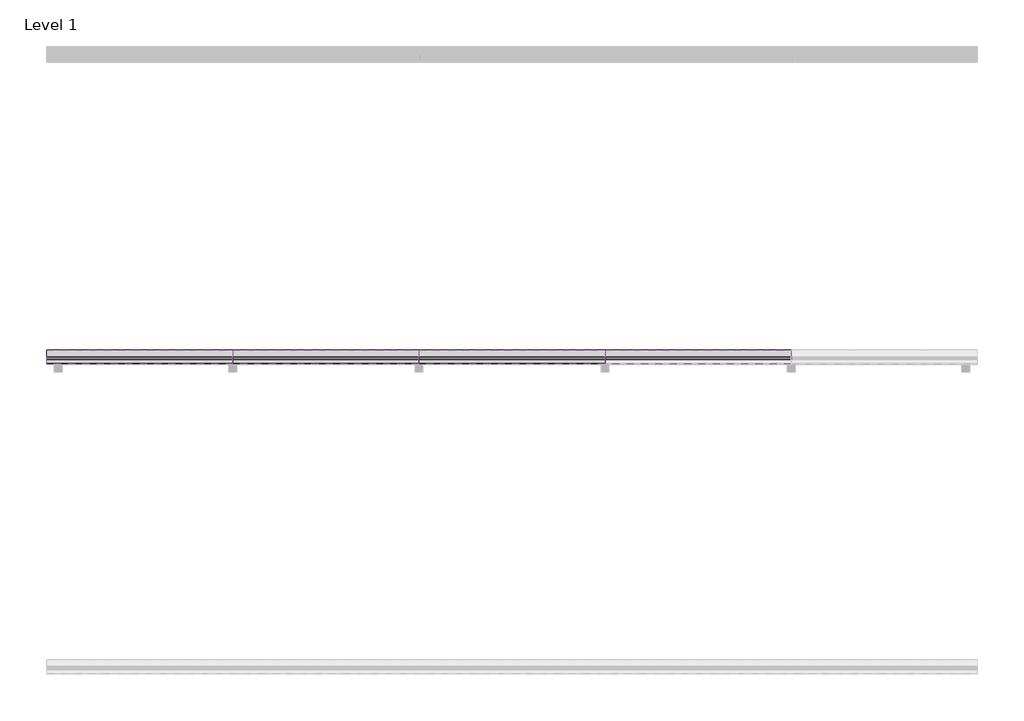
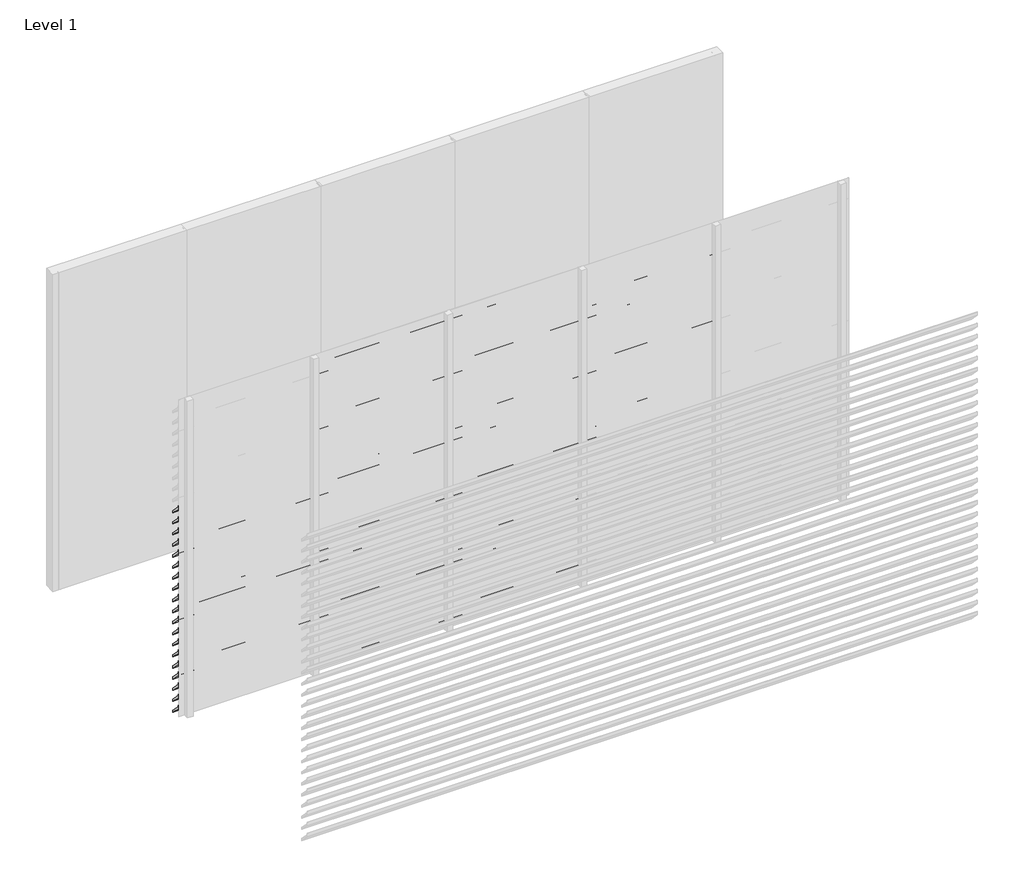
# One storey, part 4 of 8: 92 proxies.
"""IFC4 building model written with IfcOpenShell, lengths in millimetres."""

from ifc_helpers import new_model, si_unit, frame, origin, place, context, project, spatial, polyline, outline, extrude, element, save

model = new_model("IFC4")

# Units and contexts
model_context = context("Model", 3, world=origin())
ifc_project = project(units=[si_unit("LENGTHUNIT", "METRE", prefix="MILLI")], contexts=[model_context])

# Site, building, storey
site = spatial("IfcSite", under=ifc_project)
building = spatial("IfcBuilding", under=site)
storey = spatial("IfcBuildingStorey", under=building, Name="Level 1", Elevation=0.0)

# Proxies
placement = place(None, origin())
element("IfcBuildingElementProxy", 1, Name="Wall Sweeps", at=placement, inside=storey, context=model_context, shape_type="SweptSolid", body=[
    extrude(outline(polyline([(-11995.0, 1995.0), (-11995.0, 1982.0), (-11907.0, 1894.0), (-11907.0, 1873.0), (-11997.0, 1963.0), (-11997.0, 1995.0), (-11995.0, 1995.0)])), frame((0.0, 0.0, 0.0), z_axis=(1.0, 0.0, 0.0), x_axis=(0.0, 1.0, 0.0)), (0.0, 0.0, 1.0), 1200.0),
])
element("IfcBuildingElementProxy", 2, Name="Wall Sweeps", at=placement, inside=storey, context=model_context, shape_type="SweptSolid", body=[
    extrude(outline(polyline([(-11995.0, 1890.0), (-11995.0, 1877.0), (-11907.0, 1789.0), (-11907.0, 1768.0), (-11997.0, 1858.0), (-11997.0, 1890.0), (-11995.0, 1890.0)])), frame((0.0, 0.0, 0.0), z_axis=(1.0, 0.0, 0.0), x_axis=(0.0, 1.0, 0.0)), (0.0, 0.0, 1.0), 1200.0),
])
element("IfcBuildingElementProxy", 3, Name="Wall Sweeps", at=placement, inside=storey, context=model_context, shape_type="SweptSolid", body=[
    extrude(outline(polyline([(-11995.0, 1785.0), (-11995.0, 1772.0), (-11907.0, 1684.0), (-11907.0, 1663.0), (-11997.0, 1753.0), (-11997.0, 1785.0), (-11995.0, 1785.0)])), frame((0.0, 0.0, 0.0), z_axis=(1.0, 0.0, 0.0), x_axis=(0.0, 1.0, 0.0)), (0.0, 0.0, 1.0), 1200.0),
])
element("IfcBuildingElementProxy", 4, Name="Wall Sweeps", at=placement, inside=storey, context=model_context, shape_type="SweptSolid", body=[
    extrude(outline(polyline([(-11995.0, 1680.0), (-11995.0, 1667.0), (-11907.0, 1579.0), (-11907.0, 1558.0), (-11997.0, 1648.0), (-11997.0, 1680.0), (-11995.0, 1680.0)])), frame((0.0, 0.0, 0.0), z_axis=(1.0, 0.0, 0.0), x_axis=(0.0, 1.0, 0.0)), (0.0, 0.0, 1.0), 1200.0),
])
element("IfcBuildingElementProxy", 5, Name="Wall Sweeps", at=placement, inside=storey, context=model_context, shape_type="SweptSolid", body=[
    extrude(outline(polyline([(-11995.0, 1575.0), (-11995.0, 1562.0), (-11907.0, 1474.0), (-11907.0, 1453.0), (-11997.0, 1543.0), (-11997.0, 1575.0), (-11995.0, 1575.0)])), frame((0.0, 0.0, 0.0), z_axis=(1.0, 0.0, 0.0), x_axis=(0.0, 1.0, 0.0)), (0.0, 0.0, 1.0), 1200.0),
])
element("IfcBuildingElementProxy", 6, Name="Wall Sweeps", at=placement, inside=storey, context=model_context, shape_type="SweptSolid", body=[
    extrude(outline(polyline([(-11995.0, 1470.0), (-11995.0, 1457.0), (-11907.0, 1369.0), (-11907.0, 1348.0), (-11997.0, 1438.0), (-11997.0, 1470.0), (-11995.0, 1470.0)])), frame((0.0, 0.0, 0.0), z_axis=(1.0, 0.0, 0.0), x_axis=(0.0, 1.0, 0.0)), (0.0, 0.0, 1.0), 1200.0),
])
element("IfcBuildingElementProxy", 7, Name="Wall Sweeps", at=placement, inside=storey, context=model_context, shape_type="SweptSolid", body=[
    extrude(outline(polyline([(-11995.0, 1365.0), (-11995.0, 1352.0), (-11907.0, 1264.0), (-11907.0, 1243.0), (-11997.0, 1333.0), (-11997.0, 1365.0), (-11995.0, 1365.0)])), frame((0.0, 0.0, 0.0), z_axis=(1.0, 0.0, 0.0), x_axis=(0.0, 1.0, 0.0)), (0.0, 0.0, 1.0), 1200.0),
])
element("IfcBuildingElementProxy", 8, Name="Wall Sweeps", at=placement, inside=storey, context=model_context, shape_type="SweptSolid", body=[
    extrude(outline(polyline([(-11995.0, 1260.0), (-11995.0, 1247.0), (-11907.0, 1159.0), (-11907.0, 1138.0), (-11997.0, 1228.0), (-11997.0, 1260.0), (-11995.0, 1260.0)])), frame((0.0, 0.0, 0.0), z_axis=(1.0, 0.0, 0.0), x_axis=(0.0, 1.0, 0.0)), (0.0, 0.0, 1.0), 1200.0),
])
element("IfcBuildingElementProxy", 9, Name="Wall Sweeps", at=placement, inside=storey, context=model_context, shape_type="SweptSolid", body=[
    extrude(outline(polyline([(-11995.0, 1155.0), (-11995.0, 1142.0), (-11907.0, 1054.0), (-11907.0, 1033.0), (-11997.0, 1123.0), (-11997.0, 1155.0), (-11995.0, 1155.0)])), frame((0.0, 0.0, 0.0), z_axis=(1.0, 0.0, 0.0), x_axis=(0.0, 1.0, 0.0)), (0.0, 0.0, 1.0), 1200.0),
])
element("IfcBuildingElementProxy", 10, Name="Wall Sweeps", at=placement, inside=storey, context=model_context, shape_type="SweptSolid", body=[
    extrude(outline(polyline([(-11995.0, 1050.0), (-11995.0, 1037.0), (-11907.0, 949.0), (-11907.0, 928.0), (-11997.0, 1018.0), (-11997.0, 1050.0), (-11995.0, 1050.0)])), frame((0.0, 0.0, 0.0), z_axis=(1.0, 0.0, 0.0), x_axis=(0.0, 1.0, 0.0)), (0.0, 0.0, 1.0), 1200.0),
])
element("IfcBuildingElementProxy", 11, Name="Wall Sweeps", at=placement, inside=storey, context=model_context, shape_type="SweptSolid", body=[
    extrude(outline(polyline([(-11995.0, 945.0), (-11995.0, 932.0), (-11907.0, 844.0), (-11907.0, 823.0), (-11997.0, 913.0), (-11997.0, 945.0), (-11995.0, 945.0)])), frame((0.0, 0.0, 0.0), z_axis=(1.0, 0.0, 0.0), x_axis=(0.0, 1.0, 0.0)), (0.0, 0.0, 1.0), 1200.0),
])
element("IfcBuildingElementProxy", 12, Name="Wall Sweeps", at=placement, inside=storey, context=model_context, shape_type="SweptSolid", body=[
    extrude(outline(polyline([(-11995.0, 840.0), (-11995.0, 827.0), (-11907.0, 739.0), (-11907.0, 718.0), (-11997.0, 808.0), (-11997.0, 840.0), (-11995.0, 840.0)])), frame((0.0, 0.0, 0.0), z_axis=(1.0, 0.0, 0.0), x_axis=(0.0, 1.0, 0.0)), (0.0, 0.0, 1.0), 1200.0),
])
element("IfcBuildingElementProxy", 13, Name="Wall Sweeps", at=placement, inside=storey, context=model_context, shape_type="SweptSolid", body=[
    extrude(outline(polyline([(-11995.0, 735.0), (-11995.0, 722.0), (-11907.0, 634.0), (-11907.0, 613.0), (-11997.0, 703.0), (-11997.0, 735.0), (-11995.0, 735.0)])), frame((0.0, 0.0, 0.0), z_axis=(1.0, 0.0, 0.0), x_axis=(0.0, 1.0, 0.0)), (0.0, 0.0, 1.0), 1200.0),
])
element("IfcBuildingElementProxy", 14, Name="Wall Sweeps", at=placement, inside=storey, context=model_context, shape_type="SweptSolid", body=[
    extrude(outline(polyline([(-11995.0, 630.0), (-11995.0, 617.0), (-11907.0, 529.0), (-11907.0, 508.0), (-11997.0, 598.0), (-11997.0, 630.0), (-11995.0, 630.0)])), frame((0.0, 0.0, 0.0), z_axis=(1.0, 0.0, 0.0), x_axis=(0.0, 1.0, 0.0)), (0.0, 0.0, 1.0), 1200.0),
])
element("IfcBuildingElementProxy", 15, Name="Wall Sweeps", at=placement, inside=storey, context=model_context, shape_type="SweptSolid", body=[
    extrude(outline(polyline([(-11995.0, 525.0), (-11995.0, 512.0), (-11907.0, 424.0), (-11907.0, 403.0), (-11997.0, 493.0), (-11997.0, 525.0), (-11995.0, 525.0)])), frame((0.0, 0.0, 0.0), z_axis=(1.0, 0.0, 0.0), x_axis=(0.0, 1.0, 0.0)), (0.0, 0.0, 1.0), 1200.0),
])
element("IfcBuildingElementProxy", 16, Name="Wall Sweeps", at=placement, inside=storey, context=model_context, shape_type="SweptSolid", body=[
    extrude(outline(polyline([(-11995.0, 420.0), (-11995.0, 407.0), (-11907.0, 319.0), (-11907.0, 298.0), (-11997.0, 388.0), (-11997.0, 420.0), (-11995.0, 420.0)])), frame((0.0, 0.0, 0.0), z_axis=(1.0, 0.0, 0.0), x_axis=(0.0, 1.0, 0.0)), (0.0, 0.0, 1.0), 1200.0),
])
element("IfcBuildingElementProxy", 17, Name="Wall Sweeps", at=placement, inside=storey, context=model_context, shape_type="SweptSolid", body=[
    extrude(outline(polyline([(-11995.0, 315.0), (-11995.0, 302.0), (-11907.0, 214.0), (-11907.0, 193.0), (-11997.0, 283.0), (-11997.0, 315.0), (-11995.0, 315.0)])), frame((0.0, 0.0, 0.0), z_axis=(1.0, 0.0, 0.0), x_axis=(0.0, 1.0, 0.0)), (0.0, 0.0, 1.0), 1200.0),
])
element("IfcBuildingElementProxy", 18, Name="Wall Sweeps", at=placement, inside=storey, context=model_context, shape_type="SweptSolid", body=[
    extrude(outline(polyline([(-11995.0, 210.0), (-11995.0, 197.0), (-11907.0, 109.0), (-11907.0, 88.0), (-11997.0, 178.0), (-11997.0, 210.0), (-11995.0, 210.0)])), frame((0.0, 0.0, 0.0), z_axis=(1.0, 0.0, 0.0), x_axis=(0.0, 1.0, 0.0)), (0.0, 0.0, 1.0), 1200.0),
])
element("IfcBuildingElementProxy", 19, Name="Wall Sweeps", at=placement, inside=storey, context=model_context, shape_type="SweptSolid", body=[
    extrude(outline(polyline([(-11995.0, 105.0), (-11995.0, 92.0), (-11907.0, 4.0), (-11907.0, -17.0), (-11997.0, 73.0), (-11997.0, 105.0), (-11995.0, 105.0)])), frame((0.0, 0.0, 0.0), z_axis=(1.0, 0.0, 0.0), x_axis=(0.0, 1.0, 0.0)), (0.0, 0.0, 1.0), 1200.0),
])
element("IfcBuildingElementProxy", 20, Name="Wall Sweeps", at=placement, inside=storey, context=model_context, shape_type="SweptSolid", body=[
    extrude(outline(polyline([(-11995.0, 2940.0), (-11995.0, 2927.0), (-11907.0, 2839.0), (-11907.0, 2818.0), (-11997.0, 2908.0), (-11997.0, 2940.0), (-11995.0, 2940.0)])), frame((1200.0, 0.0, 0.0), z_axis=(1.0, 0.0, 0.0), x_axis=(0.0, 1.0, 0.0)), (0.0, 0.0, 1.0), 1200.0),
])
element("IfcBuildingElementProxy", 21, Name="Wall Sweeps", at=placement, inside=storey, context=model_context, shape_type="SweptSolid", body=[
    extrude(outline(polyline([(-11995.0, 2835.0), (-11995.0, 2822.0), (-11907.0, 2734.0), (-11907.0, 2713.0), (-11997.0, 2803.0), (-11997.0, 2835.0), (-11995.0, 2835.0)])), frame((1200.0, 0.0, 0.0), z_axis=(1.0, 0.0, 0.0), x_axis=(0.0, 1.0, 0.0)), (0.0, 0.0, 1.0), 1200.0),
])
element("IfcBuildingElementProxy", 22, Name="Wall Sweeps", at=placement, inside=storey, context=model_context, shape_type="SweptSolid", body=[
    extrude(outline(polyline([(-11995.0, 2730.0), (-11995.0, 2717.0), (-11907.0, 2629.0), (-11907.0, 2608.0), (-11997.0, 2698.0), (-11997.0, 2730.0), (-11995.0, 2730.0)])), frame((1200.0, 0.0, 0.0), z_axis=(1.0, 0.0, 0.0), x_axis=(0.0, 1.0, 0.0)), (0.0, 0.0, 1.0), 1200.0),
])
element("IfcBuildingElementProxy", 23, Name="Wall Sweeps", at=placement, inside=storey, context=model_context, shape_type="SweptSolid", body=[
    extrude(outline(polyline([(-11995.0, 2625.0), (-11995.0, 2612.0), (-11907.0, 2524.0), (-11907.0, 2503.0), (-11997.0, 2593.0), (-11997.0, 2625.0), (-11995.0, 2625.0)])), frame((1200.0, 0.0, 0.0), z_axis=(1.0, 0.0, 0.0), x_axis=(0.0, 1.0, 0.0)), (0.0, 0.0, 1.0), 1200.0),
])
element("IfcBuildingElementProxy", 24, Name="Wall Sweeps", at=placement, inside=storey, context=model_context, shape_type="SweptSolid", body=[
    extrude(outline(polyline([(-11995.0, 2520.0), (-11995.0, 2507.0), (-11907.0, 2419.0), (-11907.0, 2398.0), (-11997.0, 2488.0), (-11997.0, 2520.0), (-11995.0, 2520.0)])), frame((1200.0, 0.0, 0.0), z_axis=(1.0, 0.0, 0.0), x_axis=(0.0, 1.0, 0.0)), (0.0, 0.0, 1.0), 1200.0),
])
element("IfcBuildingElementProxy", 25, Name="Wall Sweeps", at=placement, inside=storey, context=model_context, shape_type="SweptSolid", body=[
    extrude(outline(polyline([(-11995.0, 2415.0), (-11995.0, 2402.0), (-11907.0, 2314.0), (-11907.0, 2293.0), (-11997.0, 2383.0), (-11997.0, 2415.0), (-11995.0, 2415.0)])), frame((1200.0, 0.0, 0.0), z_axis=(1.0, 0.0, 0.0), x_axis=(0.0, 1.0, 0.0)), (0.0, 0.0, 1.0), 1200.0),
])
element("IfcBuildingElementProxy", 26, Name="Wall Sweeps", at=placement, inside=storey, context=model_context, shape_type="SweptSolid", body=[
    extrude(outline(polyline([(-11995.0, 2310.0), (-11995.0, 2297.0), (-11907.0, 2209.0), (-11907.0, 2188.0), (-11997.0, 2278.0), (-11997.0, 2310.0), (-11995.0, 2310.0)])), frame((1200.0, 0.0, 0.0), z_axis=(1.0, 0.0, 0.0), x_axis=(0.0, 1.0, 0.0)), (0.0, 0.0, 1.0), 1200.0),
])
element("IfcBuildingElementProxy", 27, Name="Wall Sweeps", at=placement, inside=storey, context=model_context, shape_type="SweptSolid", body=[
    extrude(outline(polyline([(-11995.0, 2205.0), (-11995.0, 2192.0), (-11907.0, 2104.0), (-11907.0, 2083.0), (-11997.0, 2173.0), (-11997.0, 2205.0), (-11995.0, 2205.0)])), frame((1200.0, 0.0, 0.0), z_axis=(1.0, 0.0, 0.0), x_axis=(0.0, 1.0, 0.0)), (0.0, 0.0, 1.0), 1200.0),
])
element("IfcBuildingElementProxy", 28, Name="Wall Sweeps", at=placement, inside=storey, context=model_context, shape_type="SweptSolid", body=[
    extrude(outline(polyline([(-11995.0, 2100.0), (-11995.0, 2087.0), (-11907.0, 1999.0), (-11907.0, 1978.0), (-11997.0, 2068.0), (-11997.0, 2100.0), (-11995.0, 2100.0)])), frame((1200.0, 0.0, 0.0), z_axis=(1.0, 0.0, 0.0), x_axis=(0.0, 1.0, 0.0)), (0.0, 0.0, 1.0), 1200.0),
])
element("IfcBuildingElementProxy", 29, Name="Wall Sweeps", at=placement, inside=storey, context=model_context, shape_type="SweptSolid", body=[
    extrude(outline(polyline([(-11995.0, 1995.0), (-11995.0, 1982.0), (-11907.0, 1894.0), (-11907.0, 1873.0), (-11997.0, 1963.0), (-11997.0, 1995.0), (-11995.0, 1995.0)])), frame((1200.0, 0.0, 0.0), z_axis=(1.0, 0.0, 0.0), x_axis=(0.0, 1.0, 0.0)), (0.0, 0.0, 1.0), 1200.0),
])
element("IfcBuildingElementProxy", 30, Name="Wall Sweeps", at=placement, inside=storey, context=model_context, shape_type="SweptSolid", body=[
    extrude(outline(polyline([(-11995.0, 1890.0), (-11995.0, 1877.0), (-11907.0, 1789.0), (-11907.0, 1768.0), (-11997.0, 1858.0), (-11997.0, 1890.0), (-11995.0, 1890.0)])), frame((1200.0, 0.0, 0.0), z_axis=(1.0, 0.0, 0.0), x_axis=(0.0, 1.0, 0.0)), (0.0, 0.0, 1.0), 1200.0),
])
element("IfcBuildingElementProxy", 31, Name="Wall Sweeps", at=placement, inside=storey, context=model_context, shape_type="SweptSolid", body=[
    extrude(outline(polyline([(-11995.0, 1785.0), (-11995.0, 1772.0), (-11907.0, 1684.0), (-11907.0, 1663.0), (-11997.0, 1753.0), (-11997.0, 1785.0), (-11995.0, 1785.0)])), frame((1200.0, 0.0, 0.0), z_axis=(1.0, 0.0, 0.0), x_axis=(0.0, 1.0, 0.0)), (0.0, 0.0, 1.0), 1200.0),
])
element("IfcBuildingElementProxy", 32, Name="Wall Sweeps", at=placement, inside=storey, context=model_context, shape_type="SweptSolid", body=[
    extrude(outline(polyline([(-11995.0, 1680.0), (-11995.0, 1667.0), (-11907.0, 1579.0), (-11907.0, 1558.0), (-11997.0, 1648.0), (-11997.0, 1680.0), (-11995.0, 1680.0)])), frame((1200.0, 0.0, 0.0), z_axis=(1.0, 0.0, 0.0), x_axis=(0.0, 1.0, 0.0)), (0.0, 0.0, 1.0), 1200.0),
])
element("IfcBuildingElementProxy", 33, Name="Wall Sweeps", at=placement, inside=storey, context=model_context, shape_type="SweptSolid", body=[
    extrude(outline(polyline([(-11995.0, 1575.0), (-11995.0, 1562.0), (-11907.0, 1474.0), (-11907.0, 1453.0), (-11997.0, 1543.0), (-11997.0, 1575.0), (-11995.0, 1575.0)])), frame((1200.0, 0.0, 0.0), z_axis=(1.0, 0.0, 0.0), x_axis=(0.0, 1.0, 0.0)), (0.0, 0.0, 1.0), 1200.0),
])
element("IfcBuildingElementProxy", 34, Name="Wall Sweeps", at=placement, inside=storey, context=model_context, shape_type="SweptSolid", body=[
    extrude(outline(polyline([(-11995.0, 1470.0), (-11995.0, 1457.0), (-11907.0, 1369.0), (-11907.0, 1348.0), (-11997.0, 1438.0), (-11997.0, 1470.0), (-11995.0, 1470.0)])), frame((1200.0, 0.0, 0.0), z_axis=(1.0, 0.0, 0.0), x_axis=(0.0, 1.0, 0.0)), (0.0, 0.0, 1.0), 1200.0),
])
element("IfcBuildingElementProxy", 35, Name="Wall Sweeps", at=placement, inside=storey, context=model_context, shape_type="SweptSolid", body=[
    extrude(outline(polyline([(-11995.0, 1365.0), (-11995.0, 1352.0), (-11907.0, 1264.0), (-11907.0, 1243.0), (-11997.0, 1333.0), (-11997.0, 1365.0), (-11995.0, 1365.0)])), frame((1200.0, 0.0, 0.0), z_axis=(1.0, 0.0, 0.0), x_axis=(0.0, 1.0, 0.0)), (0.0, 0.0, 1.0), 1200.0),
])
element("IfcBuildingElementProxy", 36, Name="Wall Sweeps", at=placement, inside=storey, context=model_context, shape_type="SweptSolid", body=[
    extrude(outline(polyline([(-11995.0, 1260.0), (-11995.0, 1247.0), (-11907.0, 1159.0), (-11907.0, 1138.0), (-11997.0, 1228.0), (-11997.0, 1260.0), (-11995.0, 1260.0)])), frame((1200.0, 0.0, 0.0), z_axis=(1.0, 0.0, 0.0), x_axis=(0.0, 1.0, 0.0)), (0.0, 0.0, 1.0), 1200.0),
])
element("IfcBuildingElementProxy", 37, Name="Wall Sweeps", at=placement, inside=storey, context=model_context, shape_type="SweptSolid", body=[
    extrude(outline(polyline([(-11995.0, 1155.0), (-11995.0, 1142.0), (-11907.0, 1054.0), (-11907.0, 1033.0), (-11997.0, 1123.0), (-11997.0, 1155.0), (-11995.0, 1155.0)])), frame((1200.0, 0.0, 0.0), z_axis=(1.0, 0.0, 0.0), x_axis=(0.0, 1.0, 0.0)), (0.0, 0.0, 1.0), 1200.0),
])
element("IfcBuildingElementProxy", 38, Name="Wall Sweeps", at=placement, inside=storey, context=model_context, shape_type="SweptSolid", body=[
    extrude(outline(polyline([(-11995.0, 1050.0), (-11995.0, 1037.0), (-11907.0, 949.0), (-11907.0, 928.0), (-11997.0, 1018.0), (-11997.0, 1050.0), (-11995.0, 1050.0)])), frame((1200.0, 0.0, 0.0), z_axis=(1.0, 0.0, 0.0), x_axis=(0.0, 1.0, 0.0)), (0.0, 0.0, 1.0), 1200.0),
])
element("IfcBuildingElementProxy", 39, Name="Wall Sweeps", at=placement, inside=storey, context=model_context, shape_type="SweptSolid", body=[
    extrude(outline(polyline([(-11995.0, 945.0), (-11995.0, 932.0), (-11907.0, 844.0), (-11907.0, 823.0), (-11997.0, 913.0), (-11997.0, 945.0), (-11995.0, 945.0)])), frame((1200.0, 0.0, 0.0), z_axis=(1.0, 0.0, 0.0), x_axis=(0.0, 1.0, 0.0)), (0.0, 0.0, 1.0), 1200.0),
])
element("IfcBuildingElementProxy", 40, Name="Wall Sweeps", at=placement, inside=storey, context=model_context, shape_type="SweptSolid", body=[
    extrude(outline(polyline([(-11995.0, 840.0), (-11995.0, 827.0), (-11907.0, 739.0), (-11907.0, 718.0), (-11997.0, 808.0), (-11997.0, 840.0), (-11995.0, 840.0)])), frame((1200.0, 0.0, 0.0), z_axis=(1.0, 0.0, 0.0), x_axis=(0.0, 1.0, 0.0)), (0.0, 0.0, 1.0), 1200.0),
])
element("IfcBuildingElementProxy", 41, Name="Wall Sweeps", at=placement, inside=storey, context=model_context, shape_type="SweptSolid", body=[
    extrude(outline(polyline([(-11995.0, 735.0), (-11995.0, 722.0), (-11907.0, 634.0), (-11907.0, 613.0), (-11997.0, 703.0), (-11997.0, 735.0), (-11995.0, 735.0)])), frame((1200.0, 0.0, 0.0), z_axis=(1.0, 0.0, 0.0), x_axis=(0.0, 1.0, 0.0)), (0.0, 0.0, 1.0), 1200.0),
])
element("IfcBuildingElementProxy", 42, Name="Wall Sweeps", at=placement, inside=storey, context=model_context, shape_type="SweptSolid", body=[
    extrude(outline(polyline([(-11995.0, 630.0), (-11995.0, 617.0), (-11907.0, 529.0), (-11907.0, 508.0), (-11997.0, 598.0), (-11997.0, 630.0), (-11995.0, 630.0)])), frame((1200.0, 0.0, 0.0), z_axis=(1.0, 0.0, 0.0), x_axis=(0.0, 1.0, 0.0)), (0.0, 0.0, 1.0), 1200.0),
])
element("IfcBuildingElementProxy", 43, Name="Wall Sweeps", at=placement, inside=storey, context=model_context, shape_type="SweptSolid", body=[
    extrude(outline(polyline([(-11995.0, 525.0), (-11995.0, 512.0), (-11907.0, 424.0), (-11907.0, 403.0), (-11997.0, 493.0), (-11997.0, 525.0), (-11995.0, 525.0)])), frame((1200.0, 0.0, 0.0), z_axis=(1.0, 0.0, 0.0), x_axis=(0.0, 1.0, 0.0)), (0.0, 0.0, 1.0), 1200.0),
])
element("IfcBuildingElementProxy", 44, Name="Wall Sweeps", at=placement, inside=storey, context=model_context, shape_type="SweptSolid", body=[
    extrude(outline(polyline([(-11995.0, 420.0), (-11995.0, 407.0), (-11907.0, 319.0), (-11907.0, 298.0), (-11997.0, 388.0), (-11997.0, 420.0), (-11995.0, 420.0)])), frame((1200.0, 0.0, 0.0), z_axis=(1.0, 0.0, 0.0), x_axis=(0.0, 1.0, 0.0)), (0.0, 0.0, 1.0), 1200.0),
])
element("IfcBuildingElementProxy", 45, Name="Wall Sweeps", at=placement, inside=storey, context=model_context, shape_type="SweptSolid", body=[
    extrude(outline(polyline([(-11995.0, 315.0), (-11995.0, 302.0), (-11907.0, 214.0), (-11907.0, 193.0), (-11997.0, 283.0), (-11997.0, 315.0), (-11995.0, 315.0)])), frame((1200.0, 0.0, 0.0), z_axis=(1.0, 0.0, 0.0), x_axis=(0.0, 1.0, 0.0)), (0.0, 0.0, 1.0), 1200.0),
])
element("IfcBuildingElementProxy", 46, Name="Wall Sweeps", at=placement, inside=storey, context=model_context, shape_type="SweptSolid", body=[
    extrude(outline(polyline([(-11995.0, 210.0), (-11995.0, 197.0), (-11907.0, 109.0), (-11907.0, 88.0), (-11997.0, 178.0), (-11997.0, 210.0), (-11995.0, 210.0)])), frame((1200.0, 0.0, 0.0), z_axis=(1.0, 0.0, 0.0), x_axis=(0.0, 1.0, 0.0)), (0.0, 0.0, 1.0), 1200.0),
])
element("IfcBuildingElementProxy", 47, Name="Wall Sweeps", at=placement, inside=storey, context=model_context, shape_type="SweptSolid", body=[
    extrude(outline(polyline([(-11995.0, 105.0), (-11995.0, 92.0), (-11907.0, 4.0), (-11907.0, -17.0), (-11997.0, 73.0), (-11997.0, 105.0), (-11995.0, 105.0)])), frame((1200.0, 0.0, 0.0), z_axis=(1.0, 0.0, 0.0), x_axis=(0.0, 1.0, 0.0)), (0.0, 0.0, 1.0), 1200.0),
])
element("IfcBuildingElementProxy", 48, Name="Wall Sweeps", at=placement, inside=storey, context=model_context, shape_type="SweptSolid", body=[
    extrude(outline(polyline([(-11995.0, 2940.0), (-11995.0, 2927.0), (-11907.0, 2839.0), (-11907.0, 2818.0), (-11997.0, 2908.0), (-11997.0, 2940.0), (-11995.0, 2940.0)])), frame((2400.0, 0.0, 0.0), z_axis=(1.0, 0.0, 0.0), x_axis=(0.0, 1.0, 0.0)), (0.0, 0.0, 1.0), 1200.0),
])
element("IfcBuildingElementProxy", 49, Name="Wall Sweeps", at=placement, inside=storey, context=model_context, shape_type="SweptSolid", body=[
    extrude(outline(polyline([(-11995.0, 2835.0), (-11995.0, 2822.0), (-11907.0, 2734.0), (-11907.0, 2713.0), (-11997.0, 2803.0), (-11997.0, 2835.0), (-11995.0, 2835.0)])), frame((2400.0, 0.0, 0.0), z_axis=(1.0, 0.0, 0.0), x_axis=(0.0, 1.0, 0.0)), (0.0, 0.0, 1.0), 1200.0),
])
element("IfcBuildingElementProxy", 50, Name="Wall Sweeps", at=placement, inside=storey, context=model_context, shape_type="SweptSolid", body=[
    extrude(outline(polyline([(-11995.0, 2730.0), (-11995.0, 2717.0), (-11907.0, 2629.0), (-11907.0, 2608.0), (-11997.0, 2698.0), (-11997.0, 2730.0), (-11995.0, 2730.0)])), frame((2400.0, 0.0, 0.0), z_axis=(1.0, 0.0, 0.0), x_axis=(0.0, 1.0, 0.0)), (0.0, 0.0, 1.0), 1200.0),
])
element("IfcBuildingElementProxy", 51, Name="Wall Sweeps", at=placement, inside=storey, context=model_context, shape_type="SweptSolid", body=[
    extrude(outline(polyline([(-11995.0, 2625.0), (-11995.0, 2612.0), (-11907.0, 2524.0), (-11907.0, 2503.0), (-11997.0, 2593.0), (-11997.0, 2625.0), (-11995.0, 2625.0)])), frame((2400.0, 0.0, 0.0), z_axis=(1.0, 0.0, 0.0), x_axis=(0.0, 1.0, 0.0)), (0.0, 0.0, 1.0), 1200.0),
])
element("IfcBuildingElementProxy", 52, Name="Wall Sweeps", at=placement, inside=storey, context=model_context, shape_type="SweptSolid", body=[
    extrude(outline(polyline([(-11995.0, 2520.0), (-11995.0, 2507.0), (-11907.0, 2419.0), (-11907.0, 2398.0), (-11997.0, 2488.0), (-11997.0, 2520.0), (-11995.0, 2520.0)])), frame((2400.0, 0.0, 0.0), z_axis=(1.0, 0.0, 0.0), x_axis=(0.0, 1.0, 0.0)), (0.0, 0.0, 1.0), 1200.0),
])
element("IfcBuildingElementProxy", 53, Name="Wall Sweeps", at=placement, inside=storey, context=model_context, shape_type="SweptSolid", body=[
    extrude(outline(polyline([(-11995.0, 2415.0), (-11995.0, 2402.0), (-11907.0, 2314.0), (-11907.0, 2293.0), (-11997.0, 2383.0), (-11997.0, 2415.0), (-11995.0, 2415.0)])), frame((2400.0, 0.0, 0.0), z_axis=(1.0, 0.0, 0.0), x_axis=(0.0, 1.0, 0.0)), (0.0, 0.0, 1.0), 1200.0),
])
element("IfcBuildingElementProxy", 54, Name="Wall Sweeps", at=placement, inside=storey, context=model_context, shape_type="SweptSolid", body=[
    extrude(outline(polyline([(-11995.0, 2310.0), (-11995.0, 2297.0), (-11907.0, 2209.0), (-11907.0, 2188.0), (-11997.0, 2278.0), (-11997.0, 2310.0), (-11995.0, 2310.0)])), frame((2400.0, 0.0, 0.0), z_axis=(1.0, 0.0, 0.0), x_axis=(0.0, 1.0, 0.0)), (0.0, 0.0, 1.0), 1200.0),
])
element("IfcBuildingElementProxy", 55, Name="Wall Sweeps", at=placement, inside=storey, context=model_context, shape_type="SweptSolid", body=[
    extrude(outline(polyline([(-11995.0, 2205.0), (-11995.0, 2192.0), (-11907.0, 2104.0), (-11907.0, 2083.0), (-11997.0, 2173.0), (-11997.0, 2205.0), (-11995.0, 2205.0)])), frame((2400.0, 0.0, 0.0), z_axis=(1.0, 0.0, 0.0), x_axis=(0.0, 1.0, 0.0)), (0.0, 0.0, 1.0), 1200.0),
])
element("IfcBuildingElementProxy", 56, Name="Wall Sweeps", at=placement, inside=storey, context=model_context, shape_type="SweptSolid", body=[
    extrude(outline(polyline([(-11995.0, 2100.0), (-11995.0, 2087.0), (-11907.0, 1999.0), (-11907.0, 1978.0), (-11997.0, 2068.0), (-11997.0, 2100.0), (-11995.0, 2100.0)])), frame((2400.0, 0.0, 0.0), z_axis=(1.0, 0.0, 0.0), x_axis=(0.0, 1.0, 0.0)), (0.0, 0.0, 1.0), 1200.0),
])
element("IfcBuildingElementProxy", 57, Name="Wall Sweeps", at=placement, inside=storey, context=model_context, shape_type="SweptSolid", body=[
    extrude(outline(polyline([(-11995.0, 1995.0), (-11995.0, 1982.0), (-11907.0, 1894.0), (-11907.0, 1873.0), (-11997.0, 1963.0), (-11997.0, 1995.0), (-11995.0, 1995.0)])), frame((2400.0, 0.0, 0.0), z_axis=(1.0, 0.0, 0.0), x_axis=(0.0, 1.0, 0.0)), (0.0, 0.0, 1.0), 1200.0),
])
element("IfcBuildingElementProxy", 58, Name="Wall Sweeps", at=placement, inside=storey, context=model_context, shape_type="SweptSolid", body=[
    extrude(outline(polyline([(-11995.0, 1890.0), (-11995.0, 1877.0), (-11907.0, 1789.0), (-11907.0, 1768.0), (-11997.0, 1858.0), (-11997.0, 1890.0), (-11995.0, 1890.0)])), frame((2400.0, 0.0, 0.0), z_axis=(1.0, 0.0, 0.0), x_axis=(0.0, 1.0, 0.0)), (0.0, 0.0, 1.0), 1200.0),
])
element("IfcBuildingElementProxy", 59, Name="Wall Sweeps", at=placement, inside=storey, context=model_context, shape_type="SweptSolid", body=[
    extrude(outline(polyline([(-11995.0, 1785.0), (-11995.0, 1772.0), (-11907.0, 1684.0), (-11907.0, 1663.0), (-11997.0, 1753.0), (-11997.0, 1785.0), (-11995.0, 1785.0)])), frame((2400.0, 0.0, 0.0), z_axis=(1.0, 0.0, 0.0), x_axis=(0.0, 1.0, 0.0)), (0.0, 0.0, 1.0), 1200.0),
])
element("IfcBuildingElementProxy", 60, Name="Wall Sweeps", at=placement, inside=storey, context=model_context, shape_type="SweptSolid", body=[
    extrude(outline(polyline([(-11995.0, 1680.0), (-11995.0, 1667.0), (-11907.0, 1579.0), (-11907.0, 1558.0), (-11997.0, 1648.0), (-11997.0, 1680.0), (-11995.0, 1680.0)])), frame((2400.0, 0.0, 0.0), z_axis=(1.0, 0.0, 0.0), x_axis=(0.0, 1.0, 0.0)), (0.0, 0.0, 1.0), 1200.0),
])
element("IfcBuildingElementProxy", 61, Name="Wall Sweeps", at=placement, inside=storey, context=model_context, shape_type="SweptSolid", body=[
    extrude(outline(polyline([(-11995.0, 1575.0), (-11995.0, 1562.0), (-11907.0, 1474.0), (-11907.0, 1453.0), (-11997.0, 1543.0), (-11997.0, 1575.0), (-11995.0, 1575.0)])), frame((2400.0, 0.0, 0.0), z_axis=(1.0, 0.0, 0.0), x_axis=(0.0, 1.0, 0.0)), (0.0, 0.0, 1.0), 1200.0),
])
element("IfcBuildingElementProxy", 62, Name="Wall Sweeps", at=placement, inside=storey, context=model_context, shape_type="SweptSolid", body=[
    extrude(outline(polyline([(-11995.0, 1470.0), (-11995.0, 1457.0), (-11907.0, 1369.0), (-11907.0, 1348.0), (-11997.0, 1438.0), (-11997.0, 1470.0), (-11995.0, 1470.0)])), frame((2400.0, 0.0, 0.0), z_axis=(1.0, 0.0, 0.0), x_axis=(0.0, 1.0, 0.0)), (0.0, 0.0, 1.0), 1200.0),
])
element("IfcBuildingElementProxy", 63, Name="Wall Sweeps", at=placement, inside=storey, context=model_context, shape_type="SweptSolid", body=[
    extrude(outline(polyline([(-11995.0, 1365.0), (-11995.0, 1352.0), (-11907.0, 1264.0), (-11907.0, 1243.0), (-11997.0, 1333.0), (-11997.0, 1365.0), (-11995.0, 1365.0)])), frame((2400.0, 0.0, 0.0), z_axis=(1.0, 0.0, 0.0), x_axis=(0.0, 1.0, 0.0)), (0.0, 0.0, 1.0), 1200.0),
])
element("IfcBuildingElementProxy", 64, Name="Wall Sweeps", at=placement, inside=storey, context=model_context, shape_type="SweptSolid", body=[
    extrude(outline(polyline([(-11995.0, 1260.0), (-11995.0, 1247.0), (-11907.0, 1159.0), (-11907.0, 1138.0), (-11997.0, 1228.0), (-11997.0, 1260.0), (-11995.0, 1260.0)])), frame((2400.0, 0.0, 0.0), z_axis=(1.0, 0.0, 0.0), x_axis=(0.0, 1.0, 0.0)), (0.0, 0.0, 1.0), 1200.0),
])
element("IfcBuildingElementProxy", 65, Name="Wall Sweeps", at=placement, inside=storey, context=model_context, shape_type="SweptSolid", body=[
    extrude(outline(polyline([(-11995.0, 1155.0), (-11995.0, 1142.0), (-11907.0, 1054.0), (-11907.0, 1033.0), (-11997.0, 1123.0), (-11997.0, 1155.0), (-11995.0, 1155.0)])), frame((2400.0, 0.0, 0.0), z_axis=(1.0, 0.0, 0.0), x_axis=(0.0, 1.0, 0.0)), (0.0, 0.0, 1.0), 1200.0),
])
element("IfcBuildingElementProxy", 66, Name="Wall Sweeps", at=placement, inside=storey, context=model_context, shape_type="SweptSolid", body=[
    extrude(outline(polyline([(-11995.0, 1050.0), (-11995.0, 1037.0), (-11907.0, 949.0), (-11907.0, 928.0), (-11997.0, 1018.0), (-11997.0, 1050.0), (-11995.0, 1050.0)])), frame((2400.0, 0.0, 0.0), z_axis=(1.0, 0.0, 0.0), x_axis=(0.0, 1.0, 0.0)), (0.0, 0.0, 1.0), 1200.0),
])
element("IfcBuildingElementProxy", 67, Name="Wall Sweeps", at=placement, inside=storey, context=model_context, shape_type="SweptSolid", body=[
    extrude(outline(polyline([(-11995.0, 945.0), (-11995.0, 932.0), (-11907.0, 844.0), (-11907.0, 823.0), (-11997.0, 913.0), (-11997.0, 945.0), (-11995.0, 945.0)])), frame((2400.0, 0.0, 0.0), z_axis=(1.0, 0.0, 0.0), x_axis=(0.0, 1.0, 0.0)), (0.0, 0.0, 1.0), 1200.0),
])
element("IfcBuildingElementProxy", 68, Name="Wall Sweeps", at=placement, inside=storey, context=model_context, shape_type="SweptSolid", body=[
    extrude(outline(polyline([(-11995.0, 840.0), (-11995.0, 827.0), (-11907.0, 739.0), (-11907.0, 718.0), (-11997.0, 808.0), (-11997.0, 840.0), (-11995.0, 840.0)])), frame((2400.0, 0.0, 0.0), z_axis=(1.0, 0.0, 0.0), x_axis=(0.0, 1.0, 0.0)), (0.0, 0.0, 1.0), 1200.0),
])
element("IfcBuildingElementProxy", 69, Name="Wall Sweeps", at=placement, inside=storey, context=model_context, shape_type="SweptSolid", body=[
    extrude(outline(polyline([(-11995.0, 735.0), (-11995.0, 722.0), (-11907.0, 634.0), (-11907.0, 613.0), (-11997.0, 703.0), (-11997.0, 735.0), (-11995.0, 735.0)])), frame((2400.0, 0.0, 0.0), z_axis=(1.0, 0.0, 0.0), x_axis=(0.0, 1.0, 0.0)), (0.0, 0.0, 1.0), 1200.0),
])
element("IfcBuildingElementProxy", 70, Name="Wall Sweeps", at=placement, inside=storey, context=model_context, shape_type="SweptSolid", body=[
    extrude(outline(polyline([(-11995.0, 630.0), (-11995.0, 617.0), (-11907.0, 529.0), (-11907.0, 508.0), (-11997.0, 598.0), (-11997.0, 630.0), (-11995.0, 630.0)])), frame((2400.0, 0.0, 0.0), z_axis=(1.0, 0.0, 0.0), x_axis=(0.0, 1.0, 0.0)), (0.0, 0.0, 1.0), 1200.0),
])
element("IfcBuildingElementProxy", 71, Name="Wall Sweeps", at=placement, inside=storey, context=model_context, shape_type="SweptSolid", body=[
    extrude(outline(polyline([(-11995.0, 525.0), (-11995.0, 512.0), (-11907.0, 424.0), (-11907.0, 403.0), (-11997.0, 493.0), (-11997.0, 525.0), (-11995.0, 525.0)])), frame((2400.0, 0.0, 0.0), z_axis=(1.0, 0.0, 0.0), x_axis=(0.0, 1.0, 0.0)), (0.0, 0.0, 1.0), 1200.0),
])
element("IfcBuildingElementProxy", 72, Name="Wall Sweeps", at=placement, inside=storey, context=model_context, shape_type="SweptSolid", body=[
    extrude(outline(polyline([(-11995.0, 420.0), (-11995.0, 407.0), (-11907.0, 319.0), (-11907.0, 298.0), (-11997.0, 388.0), (-11997.0, 420.0), (-11995.0, 420.0)])), frame((2400.0, 0.0, 0.0), z_axis=(1.0, 0.0, 0.0), x_axis=(0.0, 1.0, 0.0)), (0.0, 0.0, 1.0), 1200.0),
])
element("IfcBuildingElementProxy", 73, Name="Wall Sweeps", at=placement, inside=storey, context=model_context, shape_type="SweptSolid", body=[
    extrude(outline(polyline([(-11995.0, 315.0), (-11995.0, 302.0), (-11907.0, 214.0), (-11907.0, 193.0), (-11997.0, 283.0), (-11997.0, 315.0), (-11995.0, 315.0)])), frame((2400.0, 0.0, 0.0), z_axis=(1.0, 0.0, 0.0), x_axis=(0.0, 1.0, 0.0)), (0.0, 0.0, 1.0), 1200.0),
])
element("IfcBuildingElementProxy", 74, Name="Wall Sweeps", at=placement, inside=storey, context=model_context, shape_type="SweptSolid", body=[
    extrude(outline(polyline([(-11995.0, 210.0), (-11995.0, 197.0), (-11907.0, 109.0), (-11907.0, 88.0), (-11997.0, 178.0), (-11997.0, 210.0), (-11995.0, 210.0)])), frame((2400.0, 0.0, 0.0), z_axis=(1.0, 0.0, 0.0), x_axis=(0.0, 1.0, 0.0)), (0.0, 0.0, 1.0), 1200.0),
])
element("IfcBuildingElementProxy", 75, Name="Wall Sweeps", at=placement, inside=storey, context=model_context, shape_type="SweptSolid", body=[
    extrude(outline(polyline([(-11995.0, 105.0), (-11995.0, 92.0), (-11907.0, 4.0), (-11907.0, -17.0), (-11997.0, 73.0), (-11997.0, 105.0), (-11995.0, 105.0)])), frame((2400.0, 0.0, 0.0), z_axis=(1.0, 0.0, 0.0), x_axis=(0.0, 1.0, 0.0)), (0.0, 0.0, 1.0), 1200.0),
])
element("IfcBuildingElementProxy", 76, Name="Wall Sweeps", at=placement, inside=storey, context=model_context, shape_type="SweptSolid", body=[
    extrude(outline(polyline([(-11995.0, 2940.0), (-11995.0, 2927.0), (-11907.0, 2839.0), (-11907.0, 2818.0), (-11997.0, 2908.0), (-11997.0, 2940.0), (-11995.0, 2940.0)])), frame((3600.0, 0.0, 0.0), z_axis=(1.0, 0.0, 0.0), x_axis=(0.0, 1.0, 0.0)), (0.0, 0.0, 1.0), 1200.0),
])
element("IfcBuildingElementProxy", 77, Name="Wall Sweeps", at=placement, inside=storey, context=model_context, shape_type="SweptSolid", body=[
    extrude(outline(polyline([(-11995.0, 2835.0), (-11995.0, 2822.0), (-11907.0, 2734.0), (-11907.0, 2713.0), (-11997.0, 2803.0), (-11997.0, 2835.0), (-11995.0, 2835.0)])), frame((3600.0, 0.0, 0.0), z_axis=(1.0, 0.0, 0.0), x_axis=(0.0, 1.0, 0.0)), (0.0, 0.0, 1.0), 1200.0),
])
element("IfcBuildingElementProxy", 78, Name="Wall Sweeps", at=placement, inside=storey, context=model_context, shape_type="SweptSolid", body=[
    extrude(outline(polyline([(-11995.0, 2730.0), (-11995.0, 2717.0), (-11907.0, 2629.0), (-11907.0, 2608.0), (-11997.0, 2698.0), (-11997.0, 2730.0), (-11995.0, 2730.0)])), frame((3600.0, 0.0, 0.0), z_axis=(1.0, 0.0, 0.0), x_axis=(0.0, 1.0, 0.0)), (0.0, 0.0, 1.0), 1200.0),
])
element("IfcBuildingElementProxy", 79, Name="Wall Sweeps", at=placement, inside=storey, context=model_context, shape_type="SweptSolid", body=[
    extrude(outline(polyline([(-11995.0, 2625.0), (-11995.0, 2612.0), (-11907.0, 2524.0), (-11907.0, 2503.0), (-11997.0, 2593.0), (-11997.0, 2625.0), (-11995.0, 2625.0)])), frame((3600.0, 0.0, 0.0), z_axis=(1.0, 0.0, 0.0), x_axis=(0.0, 1.0, 0.0)), (0.0, 0.0, 1.0), 1200.0),
])
element("IfcBuildingElementProxy", 80, Name="Wall Sweeps", at=placement, inside=storey, context=model_context, shape_type="SweptSolid", body=[
    extrude(outline(polyline([(-11995.0, 2520.0), (-11995.0, 2507.0), (-11907.0, 2419.0), (-11907.0, 2398.0), (-11997.0, 2488.0), (-11997.0, 2520.0), (-11995.0, 2520.0)])), frame((3600.0, 0.0, 0.0), z_axis=(1.0, 0.0, 0.0), x_axis=(0.0, 1.0, 0.0)), (0.0, 0.0, 1.0), 1200.0),
])
element("IfcBuildingElementProxy", 81, Name="Wall Sweeps", at=placement, inside=storey, context=model_context, shape_type="SweptSolid", body=[
    extrude(outline(polyline([(-11995.0, 2415.0), (-11995.0, 2402.0), (-11907.0, 2314.0), (-11907.0, 2293.0), (-11997.0, 2383.0), (-11997.0, 2415.0), (-11995.0, 2415.0)])), frame((3600.0, 0.0, 0.0), z_axis=(1.0, 0.0, 0.0), x_axis=(0.0, 1.0, 0.0)), (0.0, 0.0, 1.0), 1200.0),
])
element("IfcBuildingElementProxy", 82, Name="Wall Sweeps", at=placement, inside=storey, context=model_context, shape_type="SweptSolid", body=[
    extrude(outline(polyline([(-11995.0, 2310.0), (-11995.0, 2297.0), (-11907.0, 2209.0), (-11907.0, 2188.0), (-11997.0, 2278.0), (-11997.0, 2310.0), (-11995.0, 2310.0)])), frame((3600.0, 0.0, 0.0), z_axis=(1.0, 0.0, 0.0), x_axis=(0.0, 1.0, 0.0)), (0.0, 0.0, 1.0), 1200.0),
])
element("IfcBuildingElementProxy", 83, Name="Wall Sweeps", at=placement, inside=storey, context=model_context, shape_type="SweptSolid", body=[
    extrude(outline(polyline([(-11995.0, 2205.0), (-11995.0, 2192.0), (-11907.0, 2104.0), (-11907.0, 2083.0), (-11997.0, 2173.0), (-11997.0, 2205.0), (-11995.0, 2205.0)])), frame((3600.0, 0.0, 0.0), z_axis=(1.0, 0.0, 0.0), x_axis=(0.0, 1.0, 0.0)), (0.0, 0.0, 1.0), 1200.0),
])
element("IfcBuildingElementProxy", 84, Name="Wall Sweeps", at=placement, inside=storey, context=model_context, shape_type="SweptSolid", body=[
    extrude(outline(polyline([(-11995.0, 2100.0), (-11995.0, 2087.0), (-11907.0, 1999.0), (-11907.0, 1978.0), (-11997.0, 2068.0), (-11997.0, 2100.0), (-11995.0, 2100.0)])), frame((3600.0, 0.0, 0.0), z_axis=(1.0, 0.0, 0.0), x_axis=(0.0, 1.0, 0.0)), (0.0, 0.0, 1.0), 1200.0),
])
element("IfcBuildingElementProxy", 85, Name="Wall Sweeps", at=placement, inside=storey, context=model_context, shape_type="SweptSolid", body=[
    extrude(outline(polyline([(-11995.0, 1995.0), (-11995.0, 1982.0), (-11907.0, 1894.0), (-11907.0, 1873.0), (-11997.0, 1963.0), (-11997.0, 1995.0), (-11995.0, 1995.0)])), frame((3600.0, 0.0, 0.0), z_axis=(1.0, 0.0, 0.0), x_axis=(0.0, 1.0, 0.0)), (0.0, 0.0, 1.0), 1200.0),
])
element("IfcBuildingElementProxy", 86, Name="Wall Sweeps", at=placement, inside=storey, context=model_context, shape_type="SweptSolid", body=[
    extrude(outline(polyline([(-11995.0, 1890.0), (-11995.0, 1877.0), (-11907.0, 1789.0), (-11907.0, 1768.0), (-11997.0, 1858.0), (-11997.0, 1890.0), (-11995.0, 1890.0)])), frame((3600.0, 0.0, 0.0), z_axis=(1.0, 0.0, 0.0), x_axis=(0.0, 1.0, 0.0)), (0.0, 0.0, 1.0), 1200.0),
])
element("IfcBuildingElementProxy", 87, Name="Wall Sweeps", at=placement, inside=storey, context=model_context, shape_type="SweptSolid", body=[
    extrude(outline(polyline([(-11995.0, 1785.0), (-11995.0, 1772.0), (-11907.0, 1684.0), (-11907.0, 1663.0), (-11997.0, 1753.0), (-11997.0, 1785.0), (-11995.0, 1785.0)])), frame((3600.0, 0.0, 0.0), z_axis=(1.0, 0.0, 0.0), x_axis=(0.0, 1.0, 0.0)), (0.0, 0.0, 1.0), 1200.0),
])
element("IfcBuildingElementProxy", 88, Name="Wall Sweeps", at=placement, inside=storey, context=model_context, shape_type="SweptSolid", body=[
    extrude(outline(polyline([(-11995.0, 1680.0), (-11995.0, 1667.0), (-11907.0, 1579.0), (-11907.0, 1558.0), (-11997.0, 1648.0), (-11997.0, 1680.0), (-11995.0, 1680.0)])), frame((3600.0, 0.0, 0.0), z_axis=(1.0, 0.0, 0.0), x_axis=(0.0, 1.0, 0.0)), (0.0, 0.0, 1.0), 1200.0),
])
element("IfcBuildingElementProxy", 89, Name="Wall Sweeps", at=placement, inside=storey, context=model_context, shape_type="SweptSolid", body=[
    extrude(outline(polyline([(-11995.0, 1575.0), (-11995.0, 1562.0), (-11907.0, 1474.0), (-11907.0, 1453.0), (-11997.0, 1543.0), (-11997.0, 1575.0), (-11995.0, 1575.0)])), frame((3600.0, 0.0, 0.0), z_axis=(1.0, 0.0, 0.0), x_axis=(0.0, 1.0, 0.0)), (0.0, 0.0, 1.0), 1200.0),
])
element("IfcBuildingElementProxy", 90, Name="Wall Sweeps", at=placement, inside=storey, context=model_context, shape_type="SweptSolid", body=[
    extrude(outline(polyline([(-11995.0, 1470.0), (-11995.0, 1457.0), (-11907.0, 1369.0), (-11907.0, 1348.0), (-11997.0, 1438.0), (-11997.0, 1470.0), (-11995.0, 1470.0)])), frame((3600.0, 0.0, 0.0), z_axis=(1.0, 0.0, 0.0), x_axis=(0.0, 1.0, 0.0)), (0.0, 0.0, 1.0), 1200.0),
])
element("IfcBuildingElementProxy", 91, Name="Wall Sweeps", at=placement, inside=storey, context=model_context, shape_type="SweptSolid", body=[
    extrude(outline(polyline([(-11995.0, 1365.0), (-11995.0, 1352.0), (-11907.0, 1264.0), (-11907.0, 1243.0), (-11997.0, 1333.0), (-11997.0, 1365.0), (-11995.0, 1365.0)])), frame((3600.0, 0.0, 0.0), z_axis=(1.0, 0.0, 0.0), x_axis=(0.0, 1.0, 0.0)), (0.0, 0.0, 1.0), 1200.0),
])
element("IfcBuildingElementProxy", 92, Name="Wall Sweeps", at=placement, inside=storey, context=model_context, shape_type="SweptSolid", body=[
    extrude(outline(polyline([(-11995.0, 1260.0), (-11995.0, 1247.0), (-11907.0, 1159.0), (-11907.0, 1138.0), (-11997.0, 1228.0), (-11997.0, 1260.0), (-11995.0, 1260.0)])), frame((3600.0, 0.0, 0.0), z_axis=(1.0, 0.0, 0.0), x_axis=(0.0, 1.0, 0.0)), (0.0, 0.0, 1.0), 1200.0),
])

save(model, "model.ifc")
